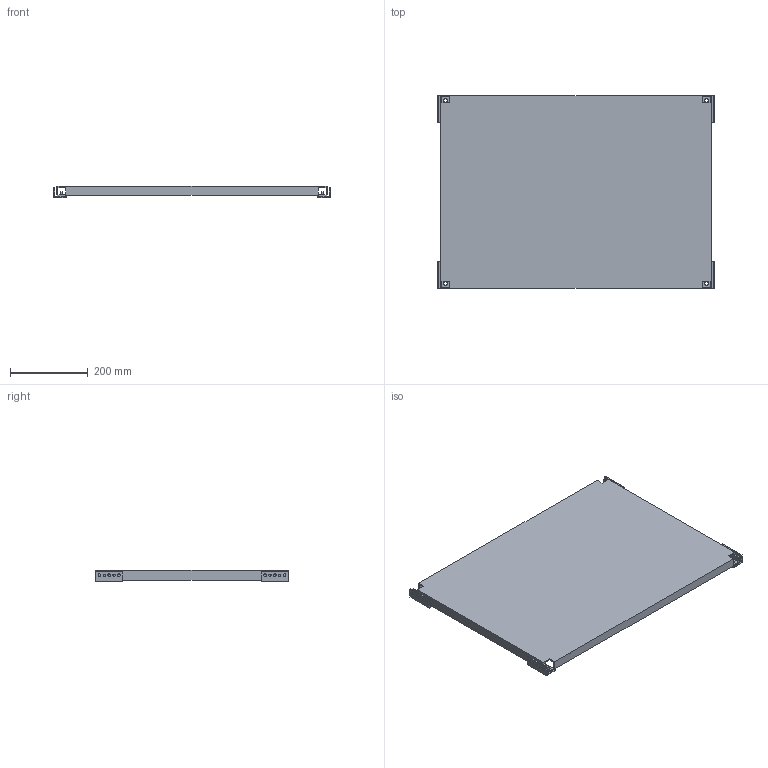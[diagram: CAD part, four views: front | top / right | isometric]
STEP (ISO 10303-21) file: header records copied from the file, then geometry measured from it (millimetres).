
FILE_DESCRIPTION( ( 'STEP AP214' ), '1' );
FILE_NAME( 'p:/temp/worker_191/temp/exporttempdir_3844_227_CSbGe/format_0/MPP0608(0).stp', '2021-03-16T09:48:02', ( 'License CC BY-ND 4.0' ), ( 'CADENAS' ), ' ', 'PARTsolutions', ' ' );
FILE_SCHEMA( ( 'AUTOMOTIVE_DESIGN { 1 0 10303 214 1 1 1 1 }' ) );
Length unit declared in the file: millimetre
Products named in the file (3): MPP0608(0); _MPP0608(0)_P4; _MPP(0)_P1
Assembly tree (5 placements, depth 2):
  MPP0608(0)
    _MPP0608(0)_P4
    _MPP(0)_P1  x4
Bounding box: 710 x 495 x 28.3 mm (x, y, z)
Volume: 1256691.6 mm3; surface area: 852932.4 mm2
Topology: 5 solids, 5 shells, 170 faces, 472 edges, 312 vertices
Faces by surface type: plane 138, cylinder 32
Full cylindrical faces by diameter (mm): 6 x8, 7 x12, 9 x4, 10 x8
Entity records: 3402 total; most frequent: CARTESIAN_POINT 469, ORIENTED_EDGE 448, DIRECTION 424, EDGE_CURVE 224, LINE 202, VECTOR 202, VERTEX_POINT 156, EDGE_LOOP 124
